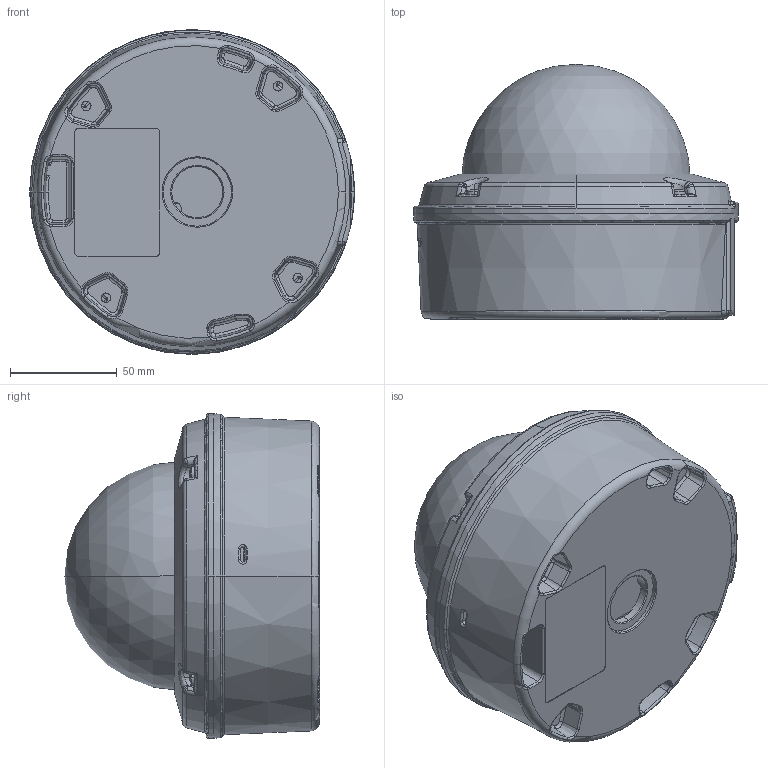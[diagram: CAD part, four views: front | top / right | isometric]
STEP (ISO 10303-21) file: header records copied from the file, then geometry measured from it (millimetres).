
FILE_DESCRIPTION((''),'2;1');
FILE_NAME('26A_ASM','2017-09-07T',('Jeson_Chien'),('PTC'),'PRO/ENGINEER BY PARAMETRIC TECHNOLOGY CORPORATION, 2013230','PRO/ENGINEER BY PARAMETRIC TECHNOLOGY CORPORATION, 2013230','');
FILE_SCHEMA(('AUTOMOTIVE_DESIGN { 1 0 10303 214 1 1 1 1 }'));
Length unit declared in the file: millimetre
Products named in the file (46): P9-173270; VPORT26_PCB-FRAME_ASM; VPORT26_PCB-FRAME_STP_ASM; PRT0002; VPORT26_ROTATION-CLIP_STP_ASM; PRT0003; PRT0004; P5-2930730; VPORT26A-PCB_CPU_AL_BKT_ASM; ASM0005_ASM; P6-2020780; P8-2019130; P9-2017480; P7-2015830; P10-2014040; VPORT26A_PCB-FRAME_BKT_ASM; ASM0006_ASM; PRT0024; PRT0025; PRT0026; P7_1; VPORT26A_LENS_CRADLE_ASM; ASM0008_ASM; PRT0030; SCREW_M4X20_TORX_1; P5-415740; VPORT26A_DOME-PLATE_ASM; PRT0031; PRT0032; PRT0033; VPORT_26_ASM_ASM; 26A_SENSOR_PCB; CMOS_SENSOR_OV10630; _20455-030E-02; LENS_AG3Z0312LMRP_N; 26A_LENS_HOLDER; 26A_LENS_HOLDER_PITCH20; 26A_SENSOR_BOARD_ASM; VPORT_26_ASM_STP_ASM; _X2_57CB982D87BA7D72_X0-2978760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
Assembly tree (50 placements, depth 6):
  26A_ASM
    VPORT26_PCB-FRAME_STP_ASM
      VPORT26_PCB-FRAME_ASM
        P9-173270
    VPORT26_ROTATION-CLIP_STP_ASM
      PRT0002
    VPORT_26_ASM_STP_ASM
      VPORT_26_ASM_ASM
        PRT0003
        PRT0004
        VPORT26A-PCB_CPU_AL_BKT_ASM
          P5-2930730
        ASM0005_ASM
        ASM0006_ASM
          VPORT26A_PCB-FRAME_BKT_ASM
            P6-2020780
            P8-2019130
            P9-2017480
            P7-2015830
            P10-2014040
        PRT0024
        PRT0025
        ASM0008_ASM
          PRT0026
          VPORT26A_LENS_CRADLE_ASM
            P7_1
        PRT0030
        SCREW_M4X20_TORX_1  x4
        VPORT26A_DOME-PLATE_ASM
          P5-415740
        PRT0031
        PRT0032
        PRT0033
      26A_SENSOR_BOARD_ASM
        26A_SENSOR_PCB
        CMOS_SENSOR_OV10630
        _20455-030E-02
        LENS_AG3Z0312LMRP_N
        26A_LENS_HOLDER
        26A_LENS_HOLDER_PITCH20
    _X2_57CB982D87BA7D72_X0-2979090_ASM
      _X2_57CB982D87BA7D72_X0-2978760
    _X2_57CB982D87BA7D72_X0-2979370_ASM
      _X2_57CB982D87BA7D72_X0-2978760
    _X2_57CB982D87BA7D72_X0-2979650_ASM
      _X2_57CB982D87BA7D72_X0-2978760
    _X2_7D0559167DDA6FFE93E-2981710_ASM
    _26A
Bounding box: 152.2 x 119.52 x 152.2 mm (x, y, z)
Volume: 432342.5 mm3; surface area: 319285 mm2
Topology: 32 solids, 32 shells, 5054 faces, 13447 edges, 8490 vertices
Faces by surface type: plane 2155, cylinder 1686, torus 489, cone 324, bspline 229, sphere 121, extrusion 50
Entity records: 204578 total; most frequent: CARTESIAN_POINT 43281, DIRECTION 26213, ORIENTED_EDGE 26078, EDGE_CURVE 13039, AXIS2_PLACEMENT_3D 9567, VERTEX_POINT 8292, PRESENTATION_STYLE_ASSIGNMENT 7365, STYLED_ITEM 7365
